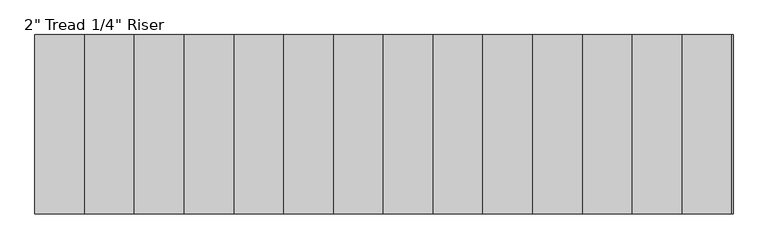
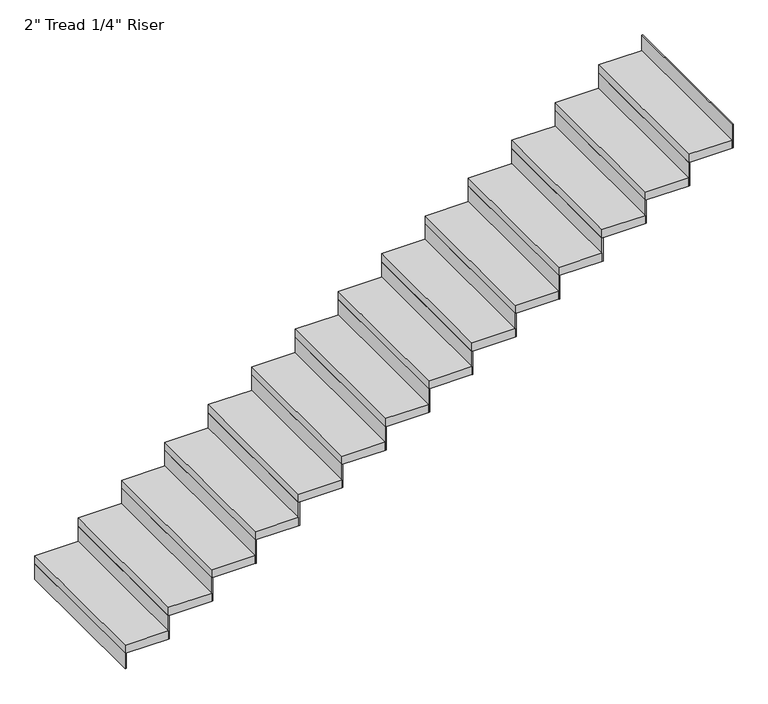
"""IFC4 building model written with IfcOpenShell, lengths in millimetres: stair flight geometry."""

from ifc_helpers import new_model, si_unit, frame, origin, origin_with_axes, place, context, project, spatial, polyline, outline, extrude, source, transform, mapped, element, save


def stair_flight_65d056e7(model_context):
    return source(origin(), model_context, "Body", "SweptSolid", [
        extrude(outline(polyline([(133302.5023809, 15846.0395941), (133296.1523809, 15846.0395941), (133296.1523809, 16760.4395941), (133302.5023809, 16760.4395941), (133302.5023809, 15846.0395941)])), origin_with_axes(), (0.0, 0.0, 1.0), 94.3428571),
        extrude(outline(polyline([(133550.1523809, 16760.4395941), (133550.1523809, 15846.0395941), (133296.1523809, 15846.0395941), (133296.1523809, 16760.4395941), (133550.1523809, 16760.4395941)])), frame((0.0, 0.0, 94.3428571), z_axis=(0.0, 0.0, 1.0), x_axis=(1.0, 0.0, 0.0)), (0.0, 0.0, 1.0), 50.8),
        extrude(outline(polyline([(133556.5023809, 15846.0395941), (133550.1523809, 15846.0395941), (133550.1523809, 16760.4395941), (133556.5023809, 16760.4395941), (133556.5023809, 15846.0395941)])), frame((0.0, 0.0, 94.3428571), z_axis=(0.0, 0.0, 1.0), x_axis=(1.0, 0.0, 0.0)), (0.0, 0.0, 1.0), 145.1428571),
        extrude(outline(polyline([(133804.1523809, 16760.4395941), (133804.1523809, 15846.0395941), (133550.1523809, 15846.0395941), (133550.1523809, 16760.4395941), (133804.1523809, 16760.4395941)])), frame((0.0, 0.0, 239.4857143), z_axis=(0.0, 0.0, 1.0), x_axis=(1.0, 0.0, 0.0)), (0.0, 0.0, 1.0), 50.8),
        extrude(outline(polyline([(133810.5023809, 15846.0395941), (133804.1523809, 15846.0395941), (133804.1523809, 16760.4395941), (133810.5023809, 16760.4395941), (133810.5023809, 15846.0395941)])), frame((0.0, 0.0, 239.4857143), z_axis=(0.0, 0.0, 1.0), x_axis=(1.0, 0.0, 0.0)), (0.0, 0.0, 1.0), 145.1428571),
        extrude(outline(polyline([(134058.1523809, 16760.4395941), (134058.1523809, 15846.0395941), (133804.1523809, 15846.0395941), (133804.1523809, 16760.4395941), (134058.1523809, 16760.4395941)])), frame((0.0, 0.0, 384.6285714), z_axis=(0.0, 0.0, 1.0), x_axis=(1.0, 0.0, 0.0)), (0.0, 0.0, 1.0), 50.8),
        extrude(outline(polyline([(134064.5023809, 15846.0395941), (134058.1523809, 15846.0395941), (134058.1523809, 16760.4395941), (134064.5023809, 16760.4395941), (134064.5023809, 15846.0395941)])), frame((0.0, 0.0, 384.6285714), z_axis=(0.0, 0.0, 1.0), x_axis=(1.0, 0.0, 0.0)), (0.0, 0.0, 1.0), 145.1428571),
        extrude(outline(polyline([(134312.1523809, 16760.4395941), (134312.1523809, 15846.0395941), (134058.1523809, 15846.0395941), (134058.1523809, 16760.4395941), (134312.1523809, 16760.4395941)])), frame((0.0, 0.0, 529.7714286), z_axis=(0.0, 0.0, 1.0), x_axis=(1.0, 0.0, 0.0)), (0.0, 0.0, 1.0), 50.8),
        extrude(outline(polyline([(134318.5023809, 15846.0395941), (134312.1523809, 15846.0395941), (134312.1523809, 16760.4395941), (134318.5023809, 16760.4395941), (134318.5023809, 15846.0395941)])), frame((0.0, 0.0, 529.7714286), z_axis=(0.0, 0.0, 1.0), x_axis=(1.0, 0.0, 0.0)), (0.0, 0.0, 1.0), 145.1428571),
        extrude(outline(polyline([(134566.1523809, 16760.4395941), (134566.1523809, 15846.0395941), (134312.1523809, 15846.0395941), (134312.1523809, 16760.4395941), (134566.1523809, 16760.4395941)])), frame((0.0, 0.0, 674.9142857), z_axis=(0.0, 0.0, 1.0), x_axis=(1.0, 0.0, 0.0)), (0.0, 0.0, 1.0), 50.8),
        extrude(outline(polyline([(134572.5023809, 15846.0395941), (134566.1523809, 15846.0395941), (134566.1523809, 16760.4395941), (134572.5023809, 16760.4395941), (134572.5023809, 15846.0395941)])), frame((0.0, 0.0, 674.9142857), z_axis=(0.0, 0.0, 1.0), x_axis=(1.0, 0.0, 0.0)), (0.0, 0.0, 1.0), 145.1428571),
        extrude(outline(polyline([(134820.1523809, 16760.4395941), (134820.1523809, 15846.0395941), (134566.1523809, 15846.0395941), (134566.1523809, 16760.4395941), (134820.1523809, 16760.4395941)])), frame((0.0, 0.0, 820.0571429), z_axis=(0.0, 0.0, 1.0), x_axis=(1.0, 0.0, 0.0)), (0.0, 0.0, 1.0), 50.8),
        extrude(outline(polyline([(134826.5023809, 15846.0395941), (134820.1523809, 15846.0395941), (134820.1523809, 16760.4395941), (134826.5023809, 16760.4395941), (134826.5023809, 15846.0395941)])), frame((0.0, 0.0, 820.0571429), z_axis=(0.0, 0.0, 1.0), x_axis=(1.0, 0.0, 0.0)), (0.0, 0.0, 1.0), 145.1428571),
        extrude(outline(polyline([(135074.1523809, 16760.4395941), (135074.1523809, 15846.0395941), (134820.1523809, 15846.0395941), (134820.1523809, 16760.4395941), (135074.1523809, 16760.4395941)])), frame((0.0, 0.0, 965.2), z_axis=(0.0, 0.0, 1.0), x_axis=(1.0, 0.0, 0.0)), (0.0, 0.0, 1.0), 50.8),
        extrude(outline(polyline([(135080.5023809, 15846.0395941), (135074.1523809, 15846.0395941), (135074.1523809, 16760.4395941), (135080.5023809, 16760.4395941), (135080.5023809, 15846.0395941)])), frame((0.0, 0.0, 965.2), z_axis=(0.0, 0.0, 1.0), x_axis=(1.0, 0.0, 0.0)), (0.0, 0.0, 1.0), 145.1428571),
        extrude(outline(polyline([(135328.1523809, 16760.4395941), (135328.1523809, 15846.0395941), (135074.1523809, 15846.0395941), (135074.1523809, 16760.4395941), (135328.1523809, 16760.4395941)])), frame((0.0, 0.0, 1110.3428571), z_axis=(0.0, 0.0, 1.0), x_axis=(1.0, 0.0, 0.0)), (0.0, 0.0, 1.0), 50.8),
        extrude(outline(polyline([(135334.5023809, 15846.0395941), (135328.1523809, 15846.0395941), (135328.1523809, 16760.4395941), (135334.5023809, 16760.4395941), (135334.5023809, 15846.0395941)])), frame((0.0, 0.0, 1110.3428571), z_axis=(0.0, 0.0, 1.0), x_axis=(1.0, 0.0, 0.0)), (0.0, 0.0, 1.0), 145.1428571),
        extrude(outline(polyline([(135582.1523809, 16760.4395941), (135582.1523809, 15846.0395941), (135328.1523809, 15846.0395941), (135328.1523809, 16760.4395941), (135582.1523809, 16760.4395941)])), frame((0.0, 0.0, 1255.4857143), z_axis=(0.0, 0.0, 1.0), x_axis=(1.0, 0.0, 0.0)), (0.0, 0.0, 1.0), 50.8),
        extrude(outline(polyline([(135588.5023809, 15846.0395941), (135582.1523809, 15846.0395941), (135582.1523809, 16760.4395941), (135588.5023809, 16760.4395941), (135588.5023809, 15846.0395941)])), frame((0.0, 0.0, 1255.4857143), z_axis=(0.0, 0.0, 1.0), x_axis=(1.0, 0.0, 0.0)), (0.0, 0.0, 1.0), 145.1428571),
        extrude(outline(polyline([(135836.1523809, 16760.4395941), (135836.1523809, 15846.0395941), (135582.1523809, 15846.0395941), (135582.1523809, 16760.4395941), (135836.1523809, 16760.4395941)])), frame((0.0, 0.0, 1400.6285714), z_axis=(0.0, 0.0, 1.0), x_axis=(1.0, 0.0, 0.0)), (0.0, 0.0, 1.0), 50.8),
        extrude(outline(polyline([(135842.5023809, 15846.0395941), (135836.1523809, 15846.0395941), (135836.1523809, 16760.4395941), (135842.5023809, 16760.4395941), (135842.5023809, 15846.0395941)])), frame((0.0, 0.0, 1400.6285714), z_axis=(0.0, 0.0, 1.0), x_axis=(1.0, 0.0, 0.0)), (0.0, 0.0, 1.0), 145.1428571),
        extrude(outline(polyline([(136090.1523809, 16760.4395941), (136090.1523809, 15846.0395941), (135836.1523809, 15846.0395941), (135836.1523809, 16760.4395941), (136090.1523809, 16760.4395941)])), frame((0.0, 0.0, 1545.7714286), z_axis=(0.0, 0.0, 1.0), x_axis=(1.0, 0.0, 0.0)), (0.0, 0.0, 1.0), 50.8),
        extrude(outline(polyline([(136096.5023809, 15846.0395941), (136090.1523809, 15846.0395941), (136090.1523809, 16760.4395941), (136096.5023809, 16760.4395941), (136096.5023809, 15846.0395941)])), frame((0.0, 0.0, 1545.7714286), z_axis=(0.0, 0.0, 1.0), x_axis=(1.0, 0.0, 0.0)), (0.0, 0.0, 1.0), 145.1428571),
        extrude(outline(polyline([(136344.1523809, 16760.4395941), (136344.1523809, 15846.0395941), (136090.1523809, 15846.0395941), (136090.1523809, 16760.4395941), (136344.1523809, 16760.4395941)])), frame((0.0, 0.0, 1690.9142857), z_axis=(0.0, 0.0, 1.0), x_axis=(1.0, 0.0, 0.0)), (0.0, 0.0, 1.0), 50.8),
        extrude(outline(polyline([(136350.5023809, 15846.0395941), (136344.1523809, 15846.0395941), (136344.1523809, 16760.4395941), (136350.5023809, 16760.4395941), (136350.5023809, 15846.0395941)])), frame((0.0, 0.0, 1690.9142857), z_axis=(0.0, 0.0, 1.0), x_axis=(1.0, 0.0, 0.0)), (0.0, 0.0, 1.0), 145.1428571),
        extrude(outline(polyline([(136598.1523809, 16760.4395941), (136598.1523809, 15846.0395941), (136344.1523809, 15846.0395941), (136344.1523809, 16760.4395941), (136598.1523809, 16760.4395941)])), frame((0.0, 0.0, 1836.0571429), z_axis=(0.0, 0.0, 1.0), x_axis=(1.0, 0.0, 0.0)), (0.0, 0.0, 1.0), 50.8),
        extrude(outline(polyline([(136604.5023809, 15846.0395941), (136598.1523809, 15846.0395941), (136598.1523809, 16760.4395941), (136604.5023809, 16760.4395941), (136604.5023809, 15846.0395941)])), frame((0.0, 0.0, 1836.0571429), z_axis=(0.0, 0.0, 1.0), x_axis=(1.0, 0.0, 0.0)), (0.0, 0.0, 1.0), 145.1428571),
        extrude(outline(polyline([(136858.5023809, 15846.0395941), (136852.1523809, 15846.0395941), (136852.1523809, 16760.4395941), (136858.5023809, 16760.4395941), (136858.5023809, 15846.0395941)])), frame((0.0, 0.0, 1981.2), z_axis=(0.0, 0.0, 1.0), x_axis=(1.0, 0.0, 0.0)), (0.0, 0.0, 1.0), 145.1428571),
        extrude(outline(polyline([(136852.1523809, 16760.4395941), (136852.1523809, 15846.0395941), (136598.1523809, 15846.0395941), (136598.1523809, 16760.4395941), (136852.1523809, 16760.4395941)])), frame((0.0, 0.0, 1981.2), z_axis=(0.0, 0.0, 1.0), x_axis=(1.0, 0.0, 0.0)), (0.0, 0.0, 1.0), 50.8),
    ])


if __name__ == "__main__":
    model = new_model("IFC4")
    model_context = context("Model", 3, world=origin())
    ifc_project = project(units=[si_unit("LENGTHUNIT", "METRE", prefix="MILLI")], contexts=[model_context])
    site = spatial("IfcSite", under=ifc_project)
    building = spatial("IfcBuilding", under=site)
    placement = place(None, origin())
    stair_flight_shape = stair_flight_65d056e7(model_context)
    element("IfcStairFlight", 1, ObjectType="2\" Tread 1/4\" Riser", at=placement, inside=building, context=model_context, shape_type="MappedRepresentation", body=[
        mapped(stair_flight_shape, transform((0.0, 0.0, 0.0), x_axis=(1.0, 0.0, 0.0), y_axis=(0.0, 1.0, 0.0), z_axis=(0.0, 0.0, 1.0))),
    ])
    save(model, "model.ifc")
